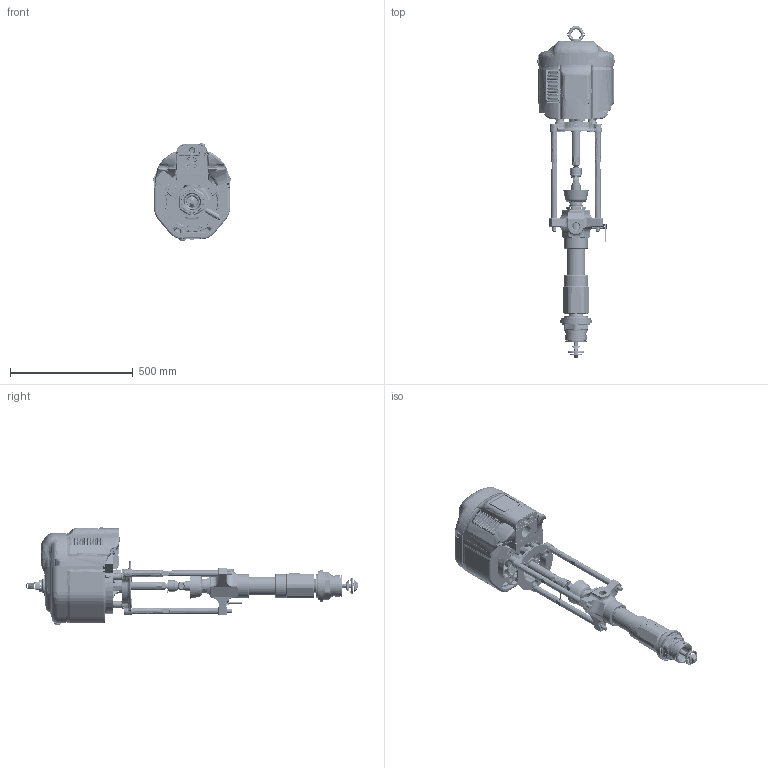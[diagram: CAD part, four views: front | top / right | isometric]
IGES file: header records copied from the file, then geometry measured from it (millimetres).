
Start section:  PTC IGES file: p23lcs-en-f.igs
Global section: file name: p23lcs-en-f.igs; native system: Creo Parametric by PTC Inc.; preprocessor: 2019030; author: qusrh3; organization: Unknown; date: 20200528.135334; units: inch
Bounding box: 314.71 x 1349.71 x 394.37 mm (x, y, z)
Surface area: 2978914.3 mm2 (no closed solid volume)
Topology: 0 solids, 0 shells, 4947 faces, 30343 edges, 30335 vertices
Faces by surface type: revolution 2666, bspline 2273, extrusion 8
